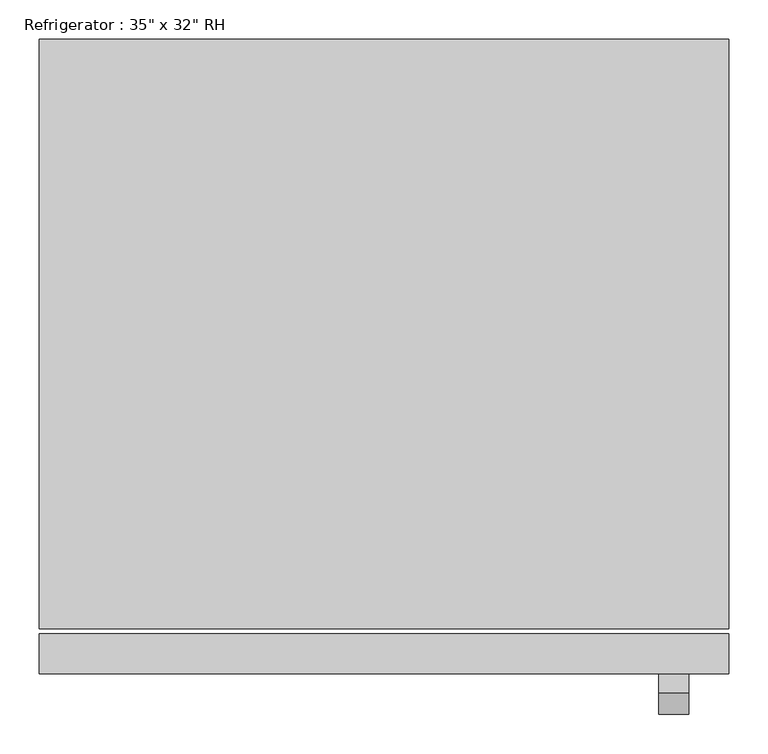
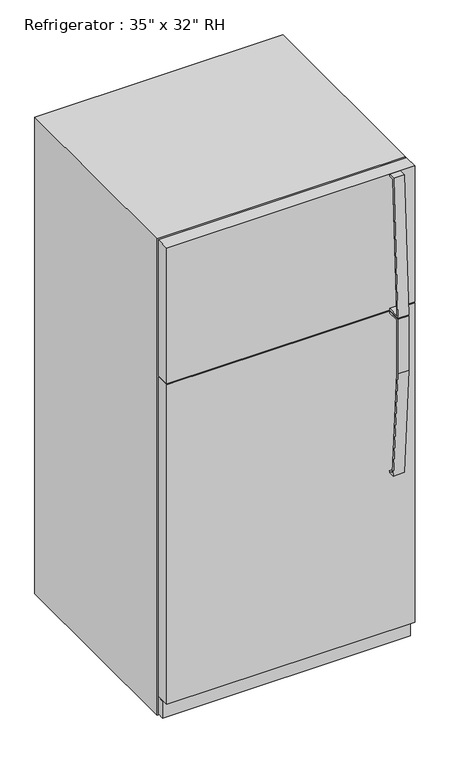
"""IFC4 building model written with IfcOpenShell, lengths in millimetres: proxy geometry."""

import ifcopenshell
import ifcopenshell.guid

model = None  # the IFC model being written
_history = None  # IfcOwnerHistory: only IFC2X3 demands one
_inside = {}  # id of a spatial element -> (the spatial element, [elements in it])
_under = {}  # id of a project, library or spatial element -> (it, [spatial elements below it])
_declared = {}  # id of a project -> (the project, [libraries it declares])
_typed = {}  # id of a type object -> (the type object, [elements of that type])
_made_of = {}  # id of a material, layer set ... -> (it, [elements and type objects made of it])


def new_model(schema):
    """Start an empty IFC model of exactly this schema.

    Asked for "IFC4X3", IfcOpenShell would pick the latest addendum, in which some entities
    have other attributes; the version numbers below select the first issue.
    IFC2X3 requires an IfcOwnerHistory on every rooted entity: one is made here for all.
    """
    global model, _history
    if schema == "IFC4X3":
        model = ifcopenshell.file(schema_version=(4, 3, 0, 0))
    else:
        model = ifcopenshell.file(schema=schema)
    _inside.clear()
    _under.clear()
    _declared.clear()
    _typed.clear()
    _made_of.clear()
    _history = None
    if model.schema == "IFC2X3":
        org = make("IfcOrganization", Name="unknown")
        user = make(
            "IfcPersonAndOrganization",
            ThePerson=make("IfcPerson", FamilyName="unknown"),
            TheOrganization=org,
        )
        app = make(
            "IfcApplication",
            ApplicationDeveloper=org,
            Version="unknown",
            ApplicationFullName="unknown",
            ApplicationIdentifier="unknown",
        )
        _history = make(
            "IfcOwnerHistory",
            OwningUser=user,
            OwningApplication=app,
            ChangeAction="ADDED",
            CreationDate=0,
        )
    return model


def make(cls, **values):
    """One entity of the class cls with the attributes given. An attribute that is None is left unset."""
    return model.create_entity(
        cls, **{name: value for name, value in values.items() if value is not None}
    )


def rooted(cls, **values):
    """An entity with a GlobalId (a new one), such as an element, a storey or a relation."""
    return make(cls, GlobalId=ifcopenshell.guid.new(), OwnerHistory=_history, **values)


def si_unit(unit_type, name, prefix=None):
    """IfcSIUnit, for example si_unit("LENGTHUNIT", "METRE", prefix="MILLI")."""
    return make("IfcSIUnit", UnitType=unit_type, Prefix=prefix, Name=name)


def assignment(units):
    """IfcUnitAssignment: the units of a project."""
    return None if units is None else make("IfcUnitAssignment", Units=units)


def point(xyz):
    """IfcCartesianPoint."""
    return None if xyz is None else make("IfcCartesianPoint", Coordinates=xyz)


def direction(xyz):
    """IfcDirection."""
    return None if xyz is None else make("IfcDirection", DirectionRatios=xyz)


def frame(location, z_axis=None, x_axis=None):
    """IfcAxis2Placement3D, a coordinate frame: its origin and axes. An axis left out is left unset."""
    return make(
        "IfcAxis2Placement3D",
        Location=point(location),
        Axis=direction(z_axis),
        RefDirection=direction(x_axis),
    )


def origin():
    """The frame at (0, 0, 0) with its axes left unset."""
    return frame((0.0, 0.0, 0.0))


def origin_with_axes():
    """The frame at (0, 0, 0) with the z axis (0, 0, 1) and the x axis (1, 0, 0) written out."""
    return frame((0.0, 0.0, 0.0), z_axis=(0.0, 0.0, 1.0), x_axis=(1.0, 0.0, 0.0))


def place(relative_to, where):
    """IfcLocalPlacement: puts the frame where relative to a parent placement (None: the world)."""
    return make(
        "IfcLocalPlacement", PlacementRelTo=relative_to, RelativePlacement=where
    )


def context(
    kind, dimensions, precision=None, world=None, true_north=None, identifier=None
):
    """IfcGeometricRepresentationContext, for example the 3D "Model" context."""
    return make(
        "IfcGeometricRepresentationContext",
        ContextIdentifier=identifier,
        ContextType=kind,
        CoordinateSpaceDimension=dimensions,
        Precision=precision,
        WorldCoordinateSystem=world,
        TrueNorth=true_north,
    )


def project(units=None, contexts=None):
    """IfcProject with its units and contexts."""
    return rooted(
        "IfcProject",
        Name="project",
        RepresentationContexts=contexts,
        UnitsInContext=assignment(units),
    )


def spatial(cls, under=None, at=None, **own):
    """A site, building, storey or space (cls), placed at a placement, below another one or the project."""
    s = rooted(cls, ObjectPlacement=at, **own)
    if under is not None:
        _under.setdefault(under.id(), (under, []))[1].append(s)
    return s


def polyline(points):
    """IfcPolyline through the points."""
    return make("IfcPolyline", Points=[point(p) for p in points])


def outline(outer, holes=None, kind="AREA"):
    """IfcArbitraryClosedProfileDef: a profile drawn as a closed curve; with holes, ...WithVoids."""
    if holes is None:
        return make("IfcArbitraryClosedProfileDef", ProfileType=kind, OuterCurve=outer)
    return make(
        "IfcArbitraryProfileDefWithVoids",
        ProfileType=kind,
        OuterCurve=outer,
        InnerCurves=holes,
    )


def extrude(swept, where, along, depth):
    """IfcExtrudedAreaSolid: the profile swept, set in the frame where, extruded along a direction by depth."""
    return make(
        "IfcExtrudedAreaSolid",
        SweptArea=swept,
        Position=where,
        ExtrudedDirection=direction(along),
        Depth=depth,
    )


def shape(context_of_items, identifier, shape_type, items):
    """IfcShapeRepresentation: the items that make up one representation, for example the "Body"."""
    return make(
        "IfcShapeRepresentation",
        ContextOfItems=context_of_items,
        RepresentationIdentifier=identifier,
        RepresentationType=shape_type,
        Items=items,
    )


def source(mapping_origin, context_of_items, identifier, shape_type, items):
    """IfcRepresentationMap: a shape defined once, which mapped items show again and again."""
    return make(
        "IfcRepresentationMap",
        MappingOrigin=mapping_origin,
        MappedRepresentation=shape(context_of_items, identifier, shape_type, items),
    )


def transform(
    local_origin,
    x_axis=None,
    y_axis=None,
    z_axis=None,
    scale=None,
    scale2=None,
    scale3=None,
    uniform=True,
):
    """IfcCartesianTransformationOperator3D, or its non-uniform kind. x_axis, y_axis, z_axis: its Axis1, 2, 3."""
    if uniform:
        return make(
            "IfcCartesianTransformationOperator3D",
            Axis1=direction(x_axis),
            Axis2=direction(y_axis),
            LocalOrigin=point(local_origin),
            Scale=scale,
            Axis3=direction(z_axis),
        )
    return make(
        "IfcCartesianTransformationOperator3DnonUniform",
        Axis1=direction(x_axis),
        Axis2=direction(y_axis),
        LocalOrigin=point(local_origin),
        Scale=scale,
        Axis3=direction(z_axis),
        Scale2=scale2,
        Scale3=scale3,
    )


def mapped(mapping_source, mapping_target):
    """IfcMappedItem: shows the shape of a source again, moved by a transform."""
    return make(
        "IfcMappedItem", MappingSource=mapping_source, MappingTarget=mapping_target
    )


def made_of(thing, what):
    """Note that an element or type object is made of a material, layer set ...; save() writes the relation."""
    if what is not None:
        _made_of.setdefault(what.id(), (what, []))[1].append(thing)
    return thing


def element(
    cls,
    number,
    at=None,
    inside=None,
    cuts=None,
    type_object=None,
    material=None,
    context=None,
    identifier="Body",
    shape_type=None,
    held_by="IfcProductDefinitionShape",
    body=None,
    shapes=None,
    **own,
):
    """One element of the class cls, such as IfcWall. Its Tag is "e" and its number.

    at: its placement. inside: the storey or other place that contains it. cuts: it is an
    opening in that element (IfcRelVoidsElement). A single representation is given by context,
    identifier, shape_type and body (its items); several are given by shapes. held_by: the class
    of the entity that holds the representations. save() writes the other relations.
    """
    e = rooted(cls, Tag="e%d" % number, ObjectPlacement=at, **own)
    if body is not None:
        shapes = [shape(context, identifier, shape_type, body)]
    if shapes is not None:
        e.Representation = make(held_by, Representations=shapes)
    if inside is not None:
        _inside.setdefault(inside.id(), (inside, []))[1].append(e)
    if cuts is not None:
        rooted(
            "IfcRelVoidsElement", RelatingBuildingElement=cuts, RelatedOpeningElement=e
        )
    if type_object is not None:
        _typed.setdefault(type_object.id(), (type_object, []))[1].append(e)
    return made_of(e, material)


def aggregate(whole, parts):
    """IfcRelAggregates: a whole, such as a stair, and the parts it consists of."""
    return rooted("IfcRelAggregates", RelatingObject=whole, RelatedObjects=parts)


def save(model, path):
    """Write the relations noted so far, then the file.

    IfcRelAggregates (storeys below a building ...), IfcRelContainedInSpatialStructure (elements
    in a storey), IfcRelDefinesByType, IfcRelAssociatesMaterial and IfcRelDeclares: one each for
    every whole, place, type object, material and project.
    """
    for whole, parts in _under.values():
        aggregate(whole, parts)
    for where, things in _inside.values():
        rooted(
            "IfcRelContainedInSpatialStructure",
            RelatedElements=things,
            RelatingStructure=where,
        )
    for kind, things in _typed.values():
        rooted("IfcRelDefinesByType", RelatedObjects=things, RelatingType=kind)
    for what, things in _made_of.values():
        rooted("IfcRelAssociatesMaterial", RelatedObjects=things, RelatingMaterial=what)
    for by, libraries in _declared.values():
        rooted("IfcRelDeclares", RelatingContext=by, RelatedDefinitions=libraries)
    model.write(path)


def proxy_9109806d(model_context):
    return source(origin(), model_context, "Body", "SweptSolid", [
        extrude(outline(polyline([(-417.9010285, 1262.0625), (-462.3510285, 1262.0625), (-462.3510285, 1065.4342469), (-434.8723987, 672.4715334), (-417.9010285, 672.4715334), (-417.9010285, 666.1370017), (-440.7949512, 666.1370017), (-468.7010285, 1065.2125), (-468.7010285, 1268.4125), (-417.9010285, 1268.4125), (-417.9010285, 1262.0625)])), frame((349.25, 0.0, 0.0), z_axis=(1.0, 0.0, 0.0), x_axis=(0.0, 1.0, 0.0)), (0.0, 0.0, 1.0), 38.4332978),
        extrude(outline(polyline([(-442.739413, 1778.0), (-418.6780855, 1778.0), (-418.6780855, 1771.65), (-437.5263449, 1771.65), (-463.4007207, 1277.9375), (-418.6780855, 1277.9375), (-418.6780855, 1271.5875), (-469.2793675, 1271.5875), (-442.739413, 1778.0)])), frame((349.25, 0.0, 0.0), z_axis=(1.0, 0.0, 0.0), x_axis=(0.0, 1.0, 0.0)), (0.0, 0.0, 1.0), 38.4332978),
        extrude(outline(polyline([(438.15, -367.1010285), (438.15, -392.5010285), (-438.15, -392.5010285), (-438.15, -367.1010285), (438.15, -367.1010285)])), frame((0.0, 0.0, 9.3816357), z_axis=(0.0, 0.0, 1.0), x_axis=(1.0, 0.0, 0.0)), (0.0, 0.0, 1.0), 63.5),
        extrude(outline(polyline([(438.15, -367.1010285), (438.15, -417.9010285), (-438.15, -417.9010285), (-438.15, -367.1010285), (438.15, -367.1010285)])), frame((0.0, 0.0, 76.2), z_axis=(0.0, 0.0, 1.0), x_axis=(1.0, 0.0, 0.0)), (0.0, 0.0, 1.0), 1192.2125),
        extrude(outline(polyline([(438.15, -367.1010285), (438.15, -417.9010285), (-438.15, -417.9010285), (-438.15, -367.1010285), (438.15, -367.1010285)])), frame((0.0, 0.0, 1271.5875), z_axis=(0.0, 0.0, 1.0), x_axis=(1.0, 0.0, 0.0)), (0.0, 0.0, 1.0), 506.4125),
        extrude(outline(polyline([(438.15, 388.5489715), (438.15, -360.7510285), (-438.15, -360.7510285), (-438.15, 388.5489715), (438.15, 388.5489715)])), origin_with_axes(), (0.0, 0.0, 1.0), 1778.0),
    ])


if __name__ == "__main__":
    model = new_model("IFC4")
    model_context = context("Model", 3, world=origin())
    ifc_project = project(units=[si_unit("LENGTHUNIT", "METRE", prefix="MILLI")], contexts=[model_context])
    site = spatial("IfcSite", under=ifc_project)
    building = spatial("IfcBuilding", under=site)
    placement = place(None, origin())
    proxy_shape = proxy_9109806d(model_context)
    element("IfcBuildingElementProxy", 1, Name="Refrigerator : 35\" x 32\" RH", ObjectType="Refrigerator : 35\" x 32\" RH", at=placement, inside=building, context=model_context, shape_type="MappedRepresentation", body=[
        mapped(proxy_shape, transform((0.0, 0.0, 0.0), x_axis=(1.0, 0.0, 0.0), y_axis=(0.0, 1.0, 0.0), z_axis=(0.0, 0.0, 1.0))),
    ])
    save(model, "model.ifc")
